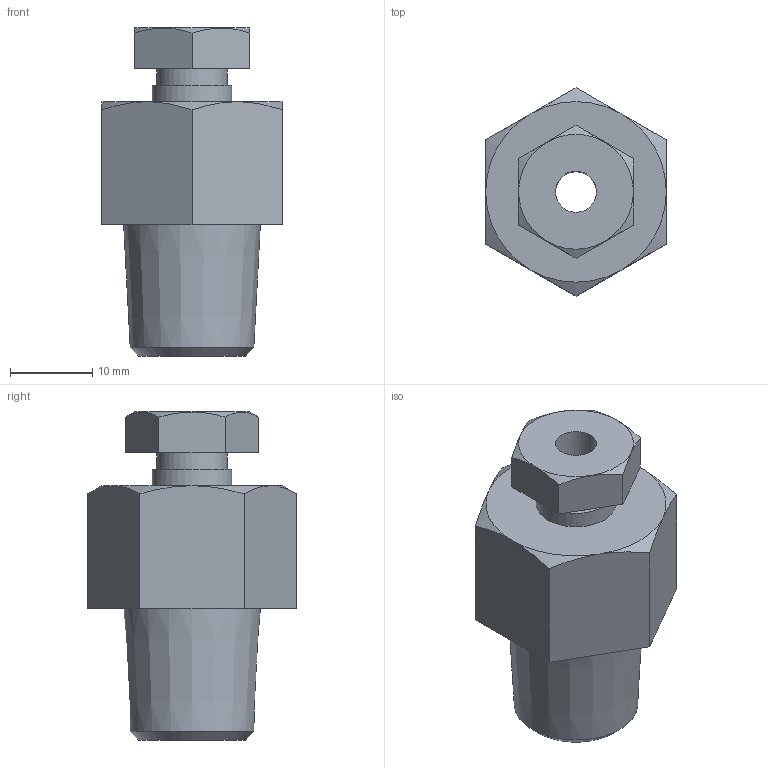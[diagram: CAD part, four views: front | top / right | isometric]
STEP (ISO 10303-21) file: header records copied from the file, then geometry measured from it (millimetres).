
FILE_DESCRIPTION (( 'STEP AP203' ), '1' );
FILE_NAME ('YICF-9(0).STEP', '2025-08-22T04:32:33', ( '' ), ( '' ), 'SwSTEP 2.0', 'SolidWorks 2024', '' );
FILE_SCHEMA (( 'CONFIG_CONTROL_DESIGN' ));
Length unit declared in the file: millimetre
Products named in the file (1): YICF-9(0)
Bounding box: 22 x 25.4 x 40 mm (x, y, z)
Volume: 9720.7 mm3; surface area: 3850.9 mm2
Topology: 1 solids, 1 shells, 30 faces, 72 edges, 48 vertices
Faces by surface type: plane 18, cone 9, cylinder 3
Full cylindrical faces by diameter (mm): 5 x1, 8.57 x1, 9.73 x1
Entity records: 1003 total; most frequent: CARTESIAN_POINT 275, ORIENTED_EDGE 128, DIRECTION 124, EDGE_CURVE 64, AXIS2_PLACEMENT_3D 47, VERTEX_POINT 46, EDGE_LOOP 42, FACE_OUTER_BOUND 33
